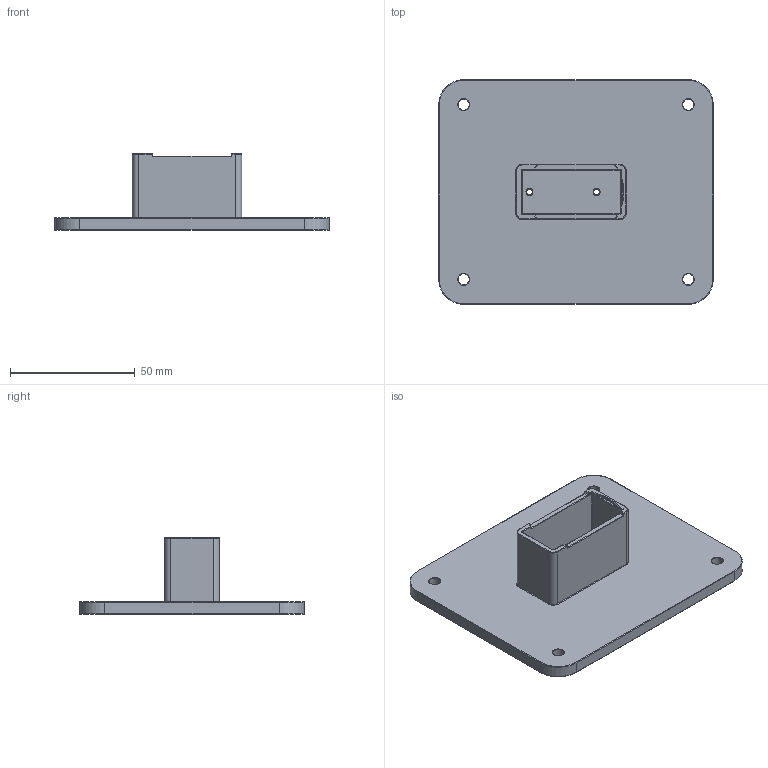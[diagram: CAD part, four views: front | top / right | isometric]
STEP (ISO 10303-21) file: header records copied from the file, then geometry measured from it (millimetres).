
FILE_DESCRIPTION(('Open CASCADE Model'),'2;1');
FILE_NAME('Open CASCADE Shape Model','2026-11-06T05:36:03',('Author'),( 'Open CASCADE'),'Open CASCADE STEP processor 8.0','Open CASCADE 8.0' ,'Unknown');
FILE_SCHEMA(('AUTOMOTIVE_DESIGN { 1 0 10303 214 1 1 1 1 }'));
Length unit declared in the file: millimetre
Products named in the file (1): Open CASCADE STEP translator 8.0 1
Bounding box: 110 x 90 x 30.7 mm (x, y, z)
Volume: 53914.4 mm3; surface area: 27759.2 mm2
Topology: 1 solids, 1 shells, 177 faces, 406 edges, 218 vertices
Faces by surface type: cylinder 79, torus 50, plane 24, sphere 14, bspline 10
Full cylindrical faces by diameter (mm): 2.4 x2, 4.45 x4
Entity records: 10891 total; most frequent: CARTESIAN_POINT 3240, DIRECTION 1409, ORIENTED_EDGE 784, PCURVE 784, DEFINITIONAL_REPRESENTATION 784, LINE 624, VECTOR 624, EDGE_CURVE 392
